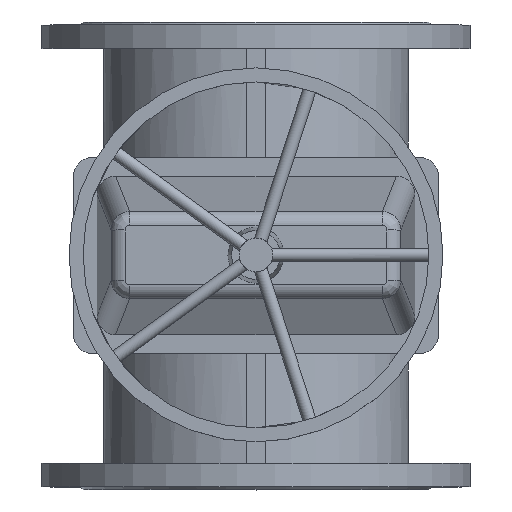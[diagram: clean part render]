
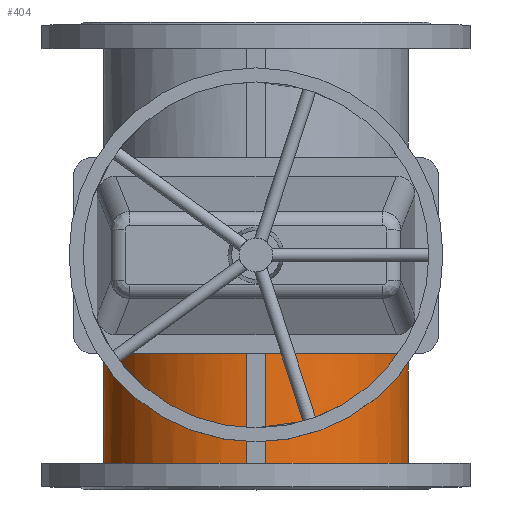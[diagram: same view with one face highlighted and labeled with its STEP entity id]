
A CAD part, top view. The second image highlights one B-rep face of the part: STEP entity #404.
In plain terms, the highlighted cylindrical face has radius 163 mm (diameter 326 mm), a partial arc.
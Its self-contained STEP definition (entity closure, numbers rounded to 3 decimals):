
#404=ADVANCED_FACE('',(#1351),#1353,.T.);
#1351=FACE_BOUND('',#1352,.T.);
#1352=EDGE_LOOP('',(#2550,#2551,#2552,#2553,#2554));
#1353=CYLINDRICAL_SURFACE('',#1354,163.);
#1354=AXIS2_PLACEMENT_3D('',#1355,#1356,#1357);
#1355=CARTESIAN_POINT('',(0.,-222.,0.));
#1356=DIRECTION('',(0.,1.,0.));
#1357=DIRECTION('',(0.,0.,1.));
#2550=ORIENTED_EDGE('',*,*,#2960,.F.);
#2551=ORIENTED_EDGE('',*,*,#2927,.F.);
#2552=ORIENTED_EDGE('',*,*,#2922,.F.);
#2553=ORIENTED_EDGE('',*,*,#2959,.F.);
#2554=ORIENTED_EDGE('',*,*,#2961,.T.);
#2922=EDGE_CURVE('',#3224,#3226,#3227,.T.);
#2927=EDGE_CURVE('',#3226,#3234,#3235,.T.);
#2959=EDGE_CURVE('',#3280,#3224,#3282,.T.);
#2960=EDGE_CURVE('',#3234,#3283,#3284,.F.);
#2961=EDGE_CURVE('',#3280,#3283,#3285,.T.);
#3224=VERTEX_POINT('',#3825);
#3226=VERTEX_POINT('',#3829);
#3227=(BOUNDED_CURVE()B_SPLINE_CURVE(3,
(#3830,#3831,#3832,#3833),
.UNSPECIFIED.,.F.,.F.)B_SPLINE_CURVE_WITH_KNOTS((4,4),
(0.,1.),
.UNSPECIFIED.)CURVE()GEOMETRIC_REPRESENTATION_ITEM()RATIONAL_B_SPLINE_CURVE((1.,
0.354,0.354,1.))REPRESENTATION_ITEM(''));
#3234=VERTEX_POINT('',#3849);
#3235=(BOUNDED_CURVE()B_SPLINE_CURVE(3,
(#3850,#3851,#3852,#3853),
.UNSPECIFIED.,.F.,.F.)B_SPLINE_CURVE_WITH_KNOTS((4,4),
(0.,1.),
.UNSPECIFIED.)CURVE()GEOMETRIC_REPRESENTATION_ITEM()RATIONAL_B_SPLINE_CURVE((1.,
0.354,0.354,1.))REPRESENTATION_ITEM(''));
#3280=VERTEX_POINT('',#3963);
#3282=LINE('',#3967,#3968);
#3283=VERTEX_POINT('',#3970);
#3284=LINE('',#3971,#3972);
#3285=CIRCLE('',#3974,163.);
#3825=CARTESIAN_POINT('',(10.,-82.056,162.693));
#3829=CARTESIAN_POINT('',(0.,-60.,-163.));
#3830=CARTESIAN_POINT('',(10.,-82.056,162.693));
#3831=CARTESIAN_POINT('',(316.425,-80.78,143.858));
#3832=CARTESIAN_POINT('',(307.003,-60.,-163.));
#3833=CARTESIAN_POINT('',(0.,-60.,-163.));
#3849=CARTESIAN_POINT('',(-10.,-82.056,162.693));
#3850=CARTESIAN_POINT('',(0.,-60.,-163.));
#3851=CARTESIAN_POINT('',(-307.003,-60.,-163.));
#3852=CARTESIAN_POINT('',(-316.425,-80.78,143.858));
#3853=CARTESIAN_POINT('',(-10.,-82.056,162.693));
#3963=CARTESIAN_POINT('',(10.,-222.,162.693));
#3967=CARTESIAN_POINT('',(10.,-222.,162.693));
#3968=VECTOR('',#3969,1.);
#3969=DIRECTION('',(0.,1.,0.));
#3970=CARTESIAN_POINT('',(-10.,-222.,162.693));
#3971=CARTESIAN_POINT('',(-10.,-222.,162.693));
#3972=VECTOR('',#3973,1.);
#3973=DIRECTION('',(0.,1.,0.));
#3974=AXIS2_PLACEMENT_3D('',#3975,#3976,#3977);
#3975=CARTESIAN_POINT('',(0.,-222.,0.));
#3976=DIRECTION('',(0.,1.,0.));
#3977=DIRECTION('',(0.061,0.,0.998));
